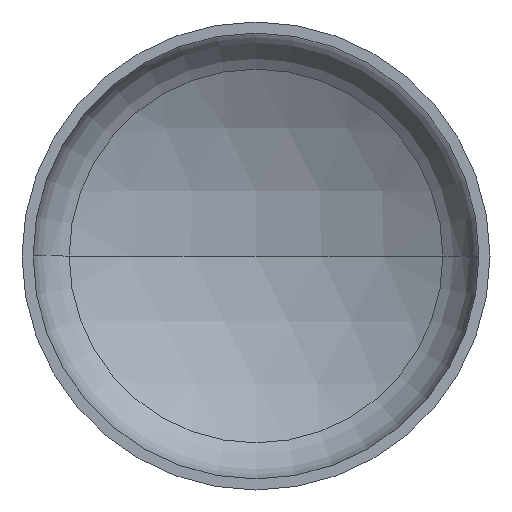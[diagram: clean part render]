
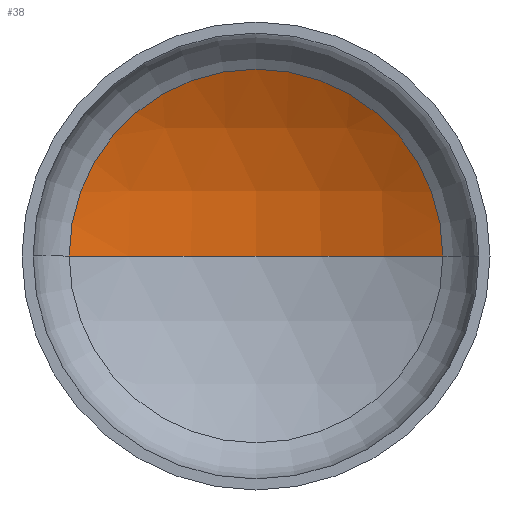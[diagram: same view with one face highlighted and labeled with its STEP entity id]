
A CAD part, front view. The second image highlights one B-rep face of the part: STEP entity #38.
In plain terms, the highlighted spherical face has radius 4000 mm.
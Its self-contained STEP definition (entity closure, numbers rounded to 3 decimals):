
#2 = CARTESIAN_POINT ( 'NONE',  ( 1996.285, 742.252, 0. ) ) ;
#13 = AXIS2_PLACEMENT_3D ( 'NONE', #105, #290, #116 ) ;
#14 = AXIS2_PLACEMENT_3D ( 'NONE', #104, #100, #102 ) ;
#28 = CARTESIAN_POINT ( 'NONE',  ( -1996.285, 742.252, 0. ) ) ;
#30 = AXIS2_PLACEMENT_3D ( 'NONE', #389, #120, #73 ) ;
#38 = ADVANCED_FACE ( 'NONE', ( #301 ), #221, .F. ) ;
#43 = AXIS2_PLACEMENT_3D ( 'NONE', #202, #255, #247 ) ;
#73 = DIRECTION ( 'NONE',  ( 1., 0., 0. ) ) ;
#100 = DIRECTION ( 'NONE',  ( 0., 0., -1. ) ) ;
#102 = DIRECTION ( 'NONE',  ( -1., 0., 0. ) ) ;
#104 = CARTESIAN_POINT ( 'NONE',  ( 0., -2723.992, 0. ) ) ;
#105 = CARTESIAN_POINT ( 'NONE',  ( 0., -2723.992, 0. ) ) ;
#116 = DIRECTION ( 'NONE',  ( 1., 0., 0. ) ) ;
#120 = DIRECTION ( 'NONE',  ( 0., -1., 0. ) ) ;
#121 = CARTESIAN_POINT ( 'NONE',  ( 0., 1276.008, 0. ) ) ;
#163 = CIRCLE ( 'NONE', #14, 4000. ) ;
#183 = CIRCLE ( 'NONE', #30, 1996.285 ) ;
#202 = CARTESIAN_POINT ( 'NONE',  ( 0., -2723.992, 0. ) ) ;
#221 = SPHERICAL_SURFACE ( 'NONE', #43, 4000. ) ;
#231 = ORIENTED_EDGE ( 'NONE', *, *, #312, .F. ) ;
#235 = VERTEX_POINT ( 'NONE', #2 ) ;
#247 = DIRECTION ( 'NONE',  ( -1., 0., 0. ) ) ;
#255 = DIRECTION ( 'NONE',  ( 0., 0., -1. ) ) ;
#287 = VERTEX_POINT ( 'NONE', #121 ) ;
#290 = DIRECTION ( 'NONE',  ( 0., 0., 1. ) ) ;
#296 = VERTEX_POINT ( 'NONE', #28 ) ;
#301 = FACE_OUTER_BOUND ( 'NONE', #393, .T. ) ;
#302 = EDGE_CURVE ( 'NONE', #235, #296, #183, .T. ) ;
#305 = EDGE_CURVE ( 'NONE', #287, #235, #163, .T. ) ;
#312 = EDGE_CURVE ( 'NONE', #287, #296, #390, .T. ) ;
#388 = ORIENTED_EDGE ( 'NONE', *, *, #305, .T. ) ;
#389 = CARTESIAN_POINT ( 'NONE',  ( 0., 742.252, 0. ) ) ;
#390 = CIRCLE ( 'NONE', #13, 4000. ) ;
#393 = EDGE_LOOP ( 'NONE', ( #231, #388, #411 ) ) ;
#411 = ORIENTED_EDGE ( 'NONE', *, *, #302, .T. ) ;
